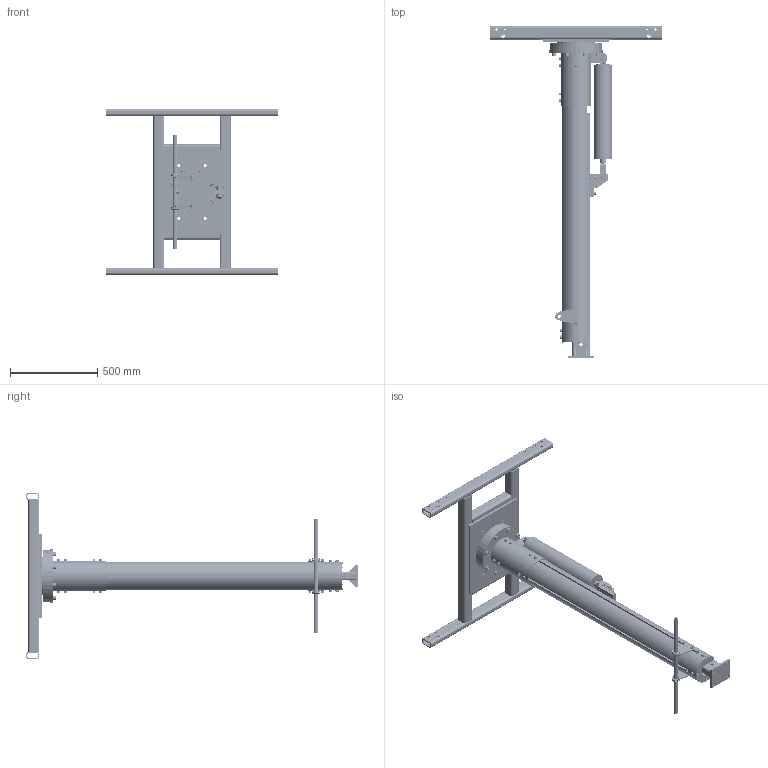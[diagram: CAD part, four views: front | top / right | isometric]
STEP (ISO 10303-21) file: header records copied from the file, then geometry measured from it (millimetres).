
FILE_DESCRIPTION(/* description */ (''),/* implementation_level */ '2;1');
FILE_NAME(/* name */ 'ATA4500.002.stp',/* time_stamp */ '2023-11-07T08:37:53-05:00',/* author */ (''),/* organization */ (''),/* preprocessor_version */ 'ST-DEVELOPER v18.102',/* originating_system */ 'SIEMENS PLM Software NX 2027',/* authorisation */ '');
FILE_SCHEMA (('AUTOMOTIVE_DESIGN { 1 0 10303 214 3 1 1 1 }'));
Length unit declared in the file: millimetre
Products named in the file (1): ATA4500.002
Bounding box: 990.6 x 1906 x 952.5 mm (x, y, z)
Volume: 28929971.5 mm3; surface area: 6565903.7 mm2
Topology: 293 solids, 303 shells, 3979 faces, 9818 edges, 6439 vertices
Faces by surface type: plane 1925, cylinder 1303, torus 379, cone 157, sphere 150, bspline 55, extrusion 10
Full cylindrical faces by diameter (mm): 1.219 x20, 5 x6, 6 x10, 6.35 x8, 6.747 x4, 6.8 x21, 7 x4, 7.938 x8, 8 x3, 8.5 x22, 9.525 x19, 10 x30, 10.16 x4, 10.2 x4, 10.319 x20, 10.32 x12, 10.8 x6, 11.113 x6, 12 x4, 13.494 x8, 14 x27, 15.875 x10, 16 x38, 16.002 x8, 16.669 x18, 16.764 x1, 16.916 x20, 16.967 x10, 17.462 x8, 17.856 x2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
Entity records: 153346 total; most frequent: CARTESIAN_POINT 34848, DIRECTION 18444, ORIENTED_EDGE 17008, EDGE_CURVE 8504, AXIS2_PLACEMENT_3D 7121, VERTEX_POINT 6205, EDGE_LOOP 5447, VECTOR 4202
